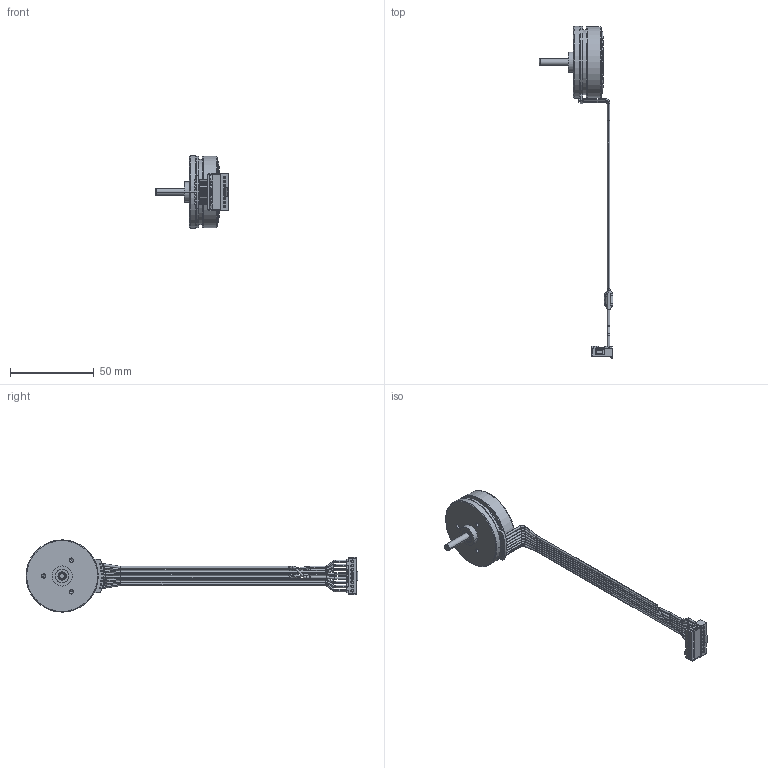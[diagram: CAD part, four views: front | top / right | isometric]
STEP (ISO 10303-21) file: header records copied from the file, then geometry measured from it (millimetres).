
FILE_DESCRIPTION((''),'2;1');
FILE_NAME('387266_EC45FL_30W_A_KABEL','2016-10-10T',('mmagpetk'),(''),'CREO PARAMETRIC BY PTC INC, 2016050','CREO PARAMETRIC BY PTC INC, 2016050','');
FILE_SCHEMA(('CONFIG_CONTROL_DESIGN'));
Length unit declared in the file: millimetre
Products named in the file (1): 387266_EC45FL_30W_A_KABEL
Bounding box: 44 x 198.5 x 43.2 mm (x, y, z)
Volume: 28159.5 mm3; surface area: 14263.8 mm2
Topology: 3 solids, 3 shells, 717 faces, 1867 edges, 1171 vertices
Faces by surface type: plane 311, cylinder 268, torus 104, cone 34
Entity records: 31277 total; most frequent: CARTESIAN_POINT 4883, DIRECTION 3863, ORIENTED_EDGE 3722, PRESENTATION_STYLE_ASSIGNMENT 2232, STYLED_ITEM 1864, CURVE_STYLE 1861, EDGE_CURVE 1861, AXIS2_PLACEMENT_3D 1409
